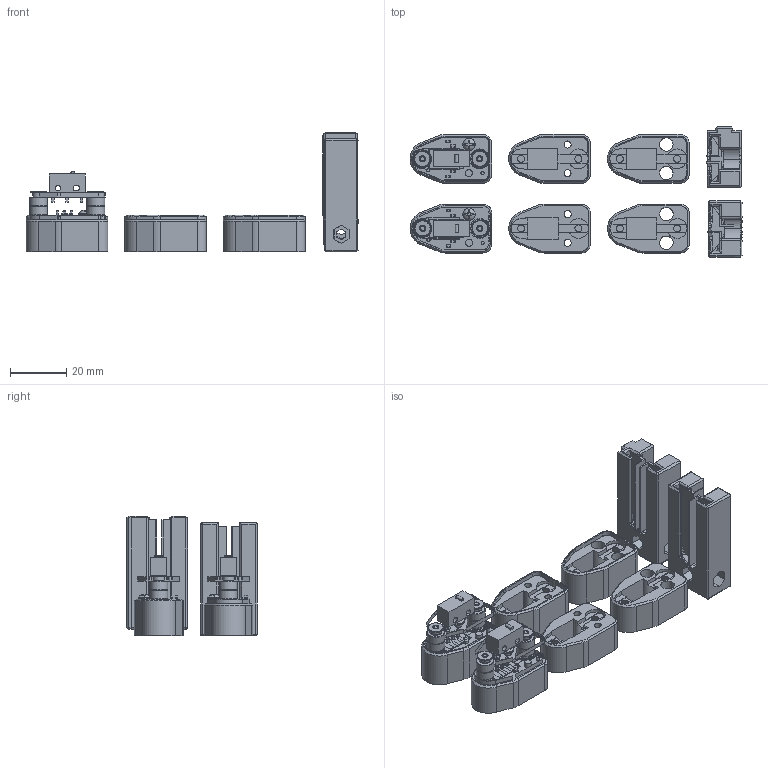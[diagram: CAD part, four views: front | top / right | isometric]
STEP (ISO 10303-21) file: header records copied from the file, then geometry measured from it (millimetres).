
FILE_DESCRIPTION(('Open CASCADE Model'),'2;1');
FILE_NAME('Open CASCADE Shape Model','2022-04-23T15:16:49',('Author'),( 'Open CASCADE'),'Open CASCADE STEP processor 6.5','Open CASCADE 6.5' ,'Unknown');
FILE_SCHEMA(('AUTOMOTIVE_DESIGN { 1 0 10303 214 1 1 1 1 }'));
Length unit declared in the file: millimetre
Products named in the file (1062): CADSOFTTOOLS 2; CADSOFTTOOLS 2.1; CADSOFTTOOLS 2.2; CADSOFTTOOLS 2.3; CADSOFTTOOLS 2.4; CADSOFTTOOLS 2.5; CADSOFTTOOLS 2.6; CADSOFTTOOLS 2.7; CADSOFTTOOLS 2.8; CADSOFTTOOLS 2.9; CADSOFTTOOLS 2.10; CADSOFTTOOLS 2.11; CADSOFTTOOLS 2.12; CADSOFTTOOLS 2.13; CADSOFTTOOLS 2.14; CADSOFTTOOLS 2.15; CADSOFTTOOLS 2.16; CADSOFTTOOLS 2.17; CADSOFTTOOLS 2.18; CADSOFTTOOLS 2.19; CADSOFTTOOLS 2.20; CADSOFTTOOLS 2.21; CADSOFTTOOLS 2.22; CADSOFTTOOLS 2.23; CADSOFTTOOLS 2.24; CADSOFTTOOLS 2.25; CADSOFTTOOLS 2.26; CADSOFTTOOLS 2.27; CADSOFTTOOLS 2.28; CADSOFTTOOLS 2.29; CADSOFTTOOLS 2.30; CADSOFTTOOLS 2.31; CADSOFTTOOLS 2.32; CADSOFTTOOLS 2.33; CADSOFTTOOLS 2.34; CADSOFTTOOLS 2.35; CADSOFTTOOLS 2.36; CADSOFTTOOLS 2.37; CADSOFTTOOLS 2.38; CADSOFTTOOLS 2.39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
Assembly tree (1871 placements, depth 4):
  CADSOFTTOOLS 2
    CADSOFTTOOLS 2.1
    CADSOFTTOOLS 2.2
    CADSOFTTOOLS 2.3
    CADSOFTTOOLS 2.4
    CADSOFTTOOLS 2.5
    CADSOFTTOOLS 2.6
    CADSOFTTOOLS 2.7
    CADSOFTTOOLS 2.8
    CADSOFTTOOLS 2.9
    CADSOFTTOOLS 2.10
    CADSOFTTOOLS 2.11
    CADSOFTTOOLS 2.12
    CADSOFTTOOLS 2.13
    CADSOFTTOOLS 2.14
    CADSOFTTOOLS 2.15
    CADSOFTTOOLS 2.16
    CADSOFTTOOLS 2.17
    CADSOFTTOOLS 2.18
    CADSOFTTOOLS 2.19
    CADSOFTTOOLS 2.20
    CADSOFTTOOLS 2.21
    CADSOFTTOOLS 2.22
    CADSOFTTOOLS 2.23
    CADSOFTTOOLS 2.24
    CADSOFTTOOLS 2.25
    CADSOFTTOOLS 2.26
    CADSOFTTOOLS 2.27
    CADSOFTTOOLS 2.28
    CADSOFTTOOLS 2.29
    CADSOFTTOOLS 2.30
    CADSOFTTOOLS 2.31
    CADSOFTTOOLS 2.32
    CADSOFTTOOLS 2.33
    CADSOFTTOOLS 2.34
    CADSOFTTOOLS 2.35
    CADSOFTTOOLS 2.36
    CADSOFTTOOLS 2.37
    CADSOFTTOOLS 2.38
    CADSOFTTOOLS 2.39
    CADSOFTTOOLS 2.40
    CADSOFTTOOLS 2.41
    CADSOFTTOOLS 2.42
    CADSOFTTOOLS 2.43
    CADSOFTTOOLS 2.44
    CADSOFTTOOLS 2.45
    CADSOFTTOOLS 2.46
    CADSOFTTOOLS 2.47
    CADSOFTTOOLS 2.48
    CADSOFTTOOLS 2.49
    CADSOFTTOOLS 2.50
    CADSOFTTOOLS 2.51
    CADSOFTTOOLS 2.52
    CADSOFTTOOLS 2.53
    CADSOFTTOOLS 2.54
    CADSOFTTOOLS 2.55
    CADSOFTTOOLS 2.56
    CADSOFTTOOLS 2.57
    CADSOFTTOOLS 2.58
    CADSOFTTOOLS 2.59
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Bounding box: 117.71 x 46.18 x 42.51 mm (x, y, z)
Surface area: 31936.8 mm2 (no closed solid volume)
Topology: 0 solids, 1883 shells, 1883 faces, 9030 edges, 8936 vertices
Faces by surface type: plane 1182, cylinder 437, cone 221, torus 32, sphere 11
Full cylindrical faces by diameter (mm): 0.95 x6, 1.152 x4, 1.2 x6, 2 x6, 2.5 x8, 2.54 x8, 4.09 x8, 4.8 x4, 6.35 x8
Entity records: 125716 total; most frequent: CARTESIAN_POINT 52417, B_SPLINE_CURVE_WITH_KNOTS 8390, DIRECTION 6283, ORIENTED_EDGE 5121, PCURVE 5121, DEFINITIONAL_REPRESENTATION 5121, EDGE_CURVE 5084, SURFACE_CURVE 5047
